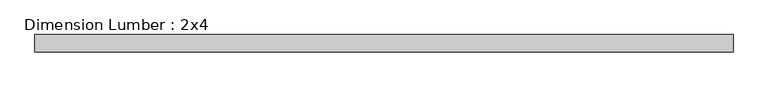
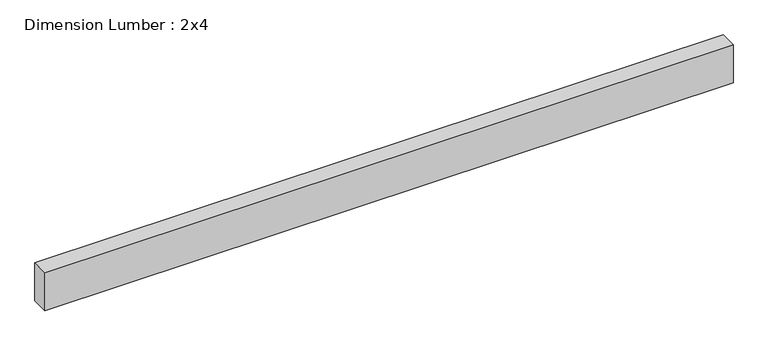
"""IFC4 building model written with IfcOpenShell, lengths in millimetres: beam geometry, Dimension Lumber : 2x4."""

import ifcopenshell
import ifcopenshell.guid

model = None  # the IFC model being written
_history = None  # IfcOwnerHistory: only IFC2X3 demands one
_inside = {}  # id of a spatial element -> (the spatial element, [elements in it])
_under = {}  # id of a project, library or spatial element -> (it, [spatial elements below it])
_declared = {}  # id of a project -> (the project, [libraries it declares])
_typed = {}  # id of a type object -> (the type object, [elements of that type])
_made_of = {}  # id of a material, layer set ... -> (it, [elements and type objects made of it])


def new_model(schema):
    """Start an empty IFC model of exactly this schema.

    Asked for "IFC4X3", IfcOpenShell would pick the latest addendum, in which some entities
    have other attributes; the version numbers below select the first issue.
    IFC2X3 requires an IfcOwnerHistory on every rooted entity: one is made here for all.
    """
    global model, _history
    if schema == "IFC4X3":
        model = ifcopenshell.file(schema_version=(4, 3, 0, 0))
    else:
        model = ifcopenshell.file(schema=schema)
    _inside.clear()
    _under.clear()
    _declared.clear()
    _typed.clear()
    _made_of.clear()
    _history = None
    if model.schema == "IFC2X3":
        org = make("IfcOrganization", Name="unknown")
        user = make(
            "IfcPersonAndOrganization",
            ThePerson=make("IfcPerson", FamilyName="unknown"),
            TheOrganization=org,
        )
        app = make(
            "IfcApplication",
            ApplicationDeveloper=org,
            Version="unknown",
            ApplicationFullName="unknown",
            ApplicationIdentifier="unknown",
        )
        _history = make(
            "IfcOwnerHistory",
            OwningUser=user,
            OwningApplication=app,
            ChangeAction="ADDED",
            CreationDate=0,
        )
    return model


def make(cls, **values):
    """One entity of the class cls with the attributes given. An attribute that is None is left unset."""
    return model.create_entity(
        cls, **{name: value for name, value in values.items() if value is not None}
    )


def rooted(cls, **values):
    """An entity with a GlobalId (a new one), such as an element, a storey or a relation."""
    return make(cls, GlobalId=ifcopenshell.guid.new(), OwnerHistory=_history, **values)


def si_unit(unit_type, name, prefix=None):
    """IfcSIUnit, for example si_unit("LENGTHUNIT", "METRE", prefix="MILLI")."""
    return make("IfcSIUnit", UnitType=unit_type, Prefix=prefix, Name=name)


def assignment(units):
    """IfcUnitAssignment: the units of a project."""
    return None if units is None else make("IfcUnitAssignment", Units=units)


def point(xyz):
    """IfcCartesianPoint."""
    return None if xyz is None else make("IfcCartesianPoint", Coordinates=xyz)


def direction(xyz):
    """IfcDirection."""
    return None if xyz is None else make("IfcDirection", DirectionRatios=xyz)


def frame(location, z_axis=None, x_axis=None):
    """IfcAxis2Placement3D, a coordinate frame: its origin and axes. An axis left out is left unset."""
    return make(
        "IfcAxis2Placement3D",
        Location=point(location),
        Axis=direction(z_axis),
        RefDirection=direction(x_axis),
    )


def origin():
    """The frame at (0, 0, 0) with its axes left unset."""
    return frame((0.0, 0.0, 0.0))


def place(relative_to, where):
    """IfcLocalPlacement: puts the frame where relative to a parent placement (None: the world)."""
    return make(
        "IfcLocalPlacement", PlacementRelTo=relative_to, RelativePlacement=where
    )


def context(
    kind, dimensions, precision=None, world=None, true_north=None, identifier=None
):
    """IfcGeometricRepresentationContext, for example the 3D "Model" context."""
    return make(
        "IfcGeometricRepresentationContext",
        ContextIdentifier=identifier,
        ContextType=kind,
        CoordinateSpaceDimension=dimensions,
        Precision=precision,
        WorldCoordinateSystem=world,
        TrueNorth=true_north,
    )


def project(units=None, contexts=None):
    """IfcProject with its units and contexts."""
    return rooted(
        "IfcProject",
        Name="project",
        RepresentationContexts=contexts,
        UnitsInContext=assignment(units),
    )


def spatial(cls, under=None, at=None, **own):
    """A site, building, storey or space (cls), placed at a placement, below another one or the project."""
    s = rooted(cls, ObjectPlacement=at, **own)
    if under is not None:
        _under.setdefault(under.id(), (under, []))[1].append(s)
    return s


def polyline(points):
    """IfcPolyline through the points."""
    return make("IfcPolyline", Points=[point(p) for p in points])


def outline(outer, holes=None, kind="AREA"):
    """IfcArbitraryClosedProfileDef: a profile drawn as a closed curve; with holes, ...WithVoids."""
    if holes is None:
        return make("IfcArbitraryClosedProfileDef", ProfileType=kind, OuterCurve=outer)
    return make(
        "IfcArbitraryProfileDefWithVoids",
        ProfileType=kind,
        OuterCurve=outer,
        InnerCurves=holes,
    )


def extrude(swept, where, along, depth):
    """IfcExtrudedAreaSolid: the profile swept, set in the frame where, extruded along a direction by depth."""
    return make(
        "IfcExtrudedAreaSolid",
        SweptArea=swept,
        Position=where,
        ExtrudedDirection=direction(along),
        Depth=depth,
    )


def shape(context_of_items, identifier, shape_type, items):
    """IfcShapeRepresentation: the items that make up one representation, for example the "Body"."""
    return make(
        "IfcShapeRepresentation",
        ContextOfItems=context_of_items,
        RepresentationIdentifier=identifier,
        RepresentationType=shape_type,
        Items=items,
    )


def source(mapping_origin, context_of_items, identifier, shape_type, items):
    """IfcRepresentationMap: a shape defined once, which mapped items show again and again."""
    return make(
        "IfcRepresentationMap",
        MappingOrigin=mapping_origin,
        MappedRepresentation=shape(context_of_items, identifier, shape_type, items),
    )


def transform(
    local_origin,
    x_axis=None,
    y_axis=None,
    z_axis=None,
    scale=None,
    scale2=None,
    scale3=None,
    uniform=True,
):
    """IfcCartesianTransformationOperator3D, or its non-uniform kind. x_axis, y_axis, z_axis: its Axis1, 2, 3."""
    if uniform:
        return make(
            "IfcCartesianTransformationOperator3D",
            Axis1=direction(x_axis),
            Axis2=direction(y_axis),
            LocalOrigin=point(local_origin),
            Scale=scale,
            Axis3=direction(z_axis),
        )
    return make(
        "IfcCartesianTransformationOperator3DnonUniform",
        Axis1=direction(x_axis),
        Axis2=direction(y_axis),
        LocalOrigin=point(local_origin),
        Scale=scale,
        Axis3=direction(z_axis),
        Scale2=scale2,
        Scale3=scale3,
    )


def mapped(mapping_source, mapping_target):
    """IfcMappedItem: shows the shape of a source again, moved by a transform."""
    return make(
        "IfcMappedItem", MappingSource=mapping_source, MappingTarget=mapping_target
    )


def made_of(thing, what):
    """Note that an element or type object is made of a material, layer set ...; save() writes the relation."""
    if what is not None:
        _made_of.setdefault(what.id(), (what, []))[1].append(thing)
    return thing


def element(
    cls,
    number,
    at=None,
    inside=None,
    cuts=None,
    type_object=None,
    material=None,
    context=None,
    identifier="Body",
    shape_type=None,
    held_by="IfcProductDefinitionShape",
    body=None,
    shapes=None,
    **own,
):
    """One element of the class cls, such as IfcWall. Its Tag is "e" and its number.

    at: its placement. inside: the storey or other place that contains it. cuts: it is an
    opening in that element (IfcRelVoidsElement). A single representation is given by context,
    identifier, shape_type and body (its items); several are given by shapes. held_by: the class
    of the entity that holds the representations. save() writes the other relations.
    """
    e = rooted(cls, Tag="e%d" % number, ObjectPlacement=at, **own)
    if body is not None:
        shapes = [shape(context, identifier, shape_type, body)]
    if shapes is not None:
        e.Representation = make(held_by, Representations=shapes)
    if inside is not None:
        _inside.setdefault(inside.id(), (inside, []))[1].append(e)
    if cuts is not None:
        rooted(
            "IfcRelVoidsElement", RelatingBuildingElement=cuts, RelatedOpeningElement=e
        )
    if type_object is not None:
        _typed.setdefault(type_object.id(), (type_object, []))[1].append(e)
    return made_of(e, material)


def aggregate(whole, parts):
    """IfcRelAggregates: a whole, such as a stair, and the parts it consists of."""
    return rooted("IfcRelAggregates", RelatingObject=whole, RelatedObjects=parts)


def save(model, path):
    """Write the relations noted so far, then the file.

    IfcRelAggregates (storeys below a building ...), IfcRelContainedInSpatialStructure (elements
    in a storey), IfcRelDefinesByType, IfcRelAssociatesMaterial and IfcRelDeclares: one each for
    every whole, place, type object, material and project.
    """
    for whole, parts in _under.values():
        aggregate(whole, parts)
    for where, things in _inside.values():
        rooted(
            "IfcRelContainedInSpatialStructure",
            RelatedElements=things,
            RelatingStructure=where,
        )
    for kind, things in _typed.values():
        rooted("IfcRelDefinesByType", RelatedObjects=things, RelatingType=kind)
    for what, things in _made_of.values():
        rooted("IfcRelAssociatesMaterial", RelatedObjects=things, RelatingMaterial=what)
    for by, libraries in _declared.values():
        rooted("IfcRelDeclares", RelatingContext=by, RelatedDefinitions=libraries)
    model.write(path)


def dimension_lumber_2x4_d29ce9ec(model_context):
    return source(origin(), model_context, "Body", "SweptSolid", [
        extrude(outline(polyline([(759.0895833, 19.05), (759.0895833, -19.05), (-759.0895833, -19.05), (-759.0895833, 19.05), (759.0895833, 19.05)])), frame((0.0, 0.0, -44.45), z_axis=(0.0, 0.0, 1.0), x_axis=(1.0, 0.0, 0.0)), (0.0, 0.0, 1.0), 88.9),
    ])


if __name__ == "__main__":
    model = new_model("IFC4")
    model_context = context("Model", 3, world=origin())
    ifc_project = project(units=[si_unit("LENGTHUNIT", "METRE", prefix="MILLI")], contexts=[model_context])
    site = spatial("IfcSite", under=ifc_project)
    building = spatial("IfcBuilding", under=site)
    placement = place(None, origin())
    dimension_lumber_2x4_shape = dimension_lumber_2x4_d29ce9ec(model_context)
    element("IfcBeam", 1, ObjectType="Dimension Lumber : 2x4", at=placement, inside=building, context=model_context, shape_type="MappedRepresentation", body=[
        mapped(dimension_lumber_2x4_shape, transform((0.0, 0.0, 0.0), x_axis=(1.0, 0.0, 0.0), y_axis=(0.0, 1.0, 0.0), z_axis=(0.0, 0.0, 1.0))),
    ])
    save(model, "model.ifc")
